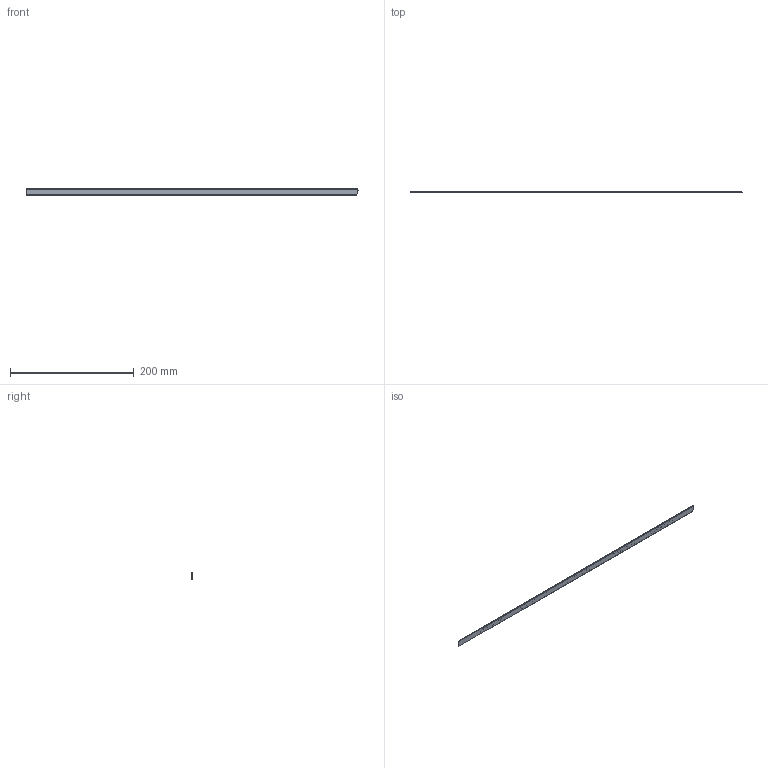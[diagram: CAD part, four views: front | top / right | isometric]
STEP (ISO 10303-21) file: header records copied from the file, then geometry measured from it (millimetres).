
FILE_DESCRIPTION (( 'STEP AP214' ), '1' );
FILE_NAME ('AS10_scale_VHB.STEP', '2022-06-08T09:05:32', ( '' ), ( '' ), 'SwSTEP 2.0', 'SolidWorks 2020', '' );
FILE_SCHEMA (( 'AUTOMOTIVE_DESIGN' ));
Length unit declared in the file: millimetre
Products named in the file (1): AS10_scale_VHB
Bounding box: 537.5 x 1.43 x 10 mm (x, y, z)
Volume: 7591.8 mm3; surface area: 32604.3 mm2
Topology: 3 solids, 3 shells, 1397 faces, 3723 edges, 2482 vertices
Faces by surface type: plane 1005, bspline 338, cylinder 54
Entity records: 58076 total; most frequent: CARTESIAN_POINT 23532, ORIENTED_EDGE 7446, DIRECTION 5267, EDGE_CURVE 3723, LINE 2939, VECTOR 2939, VERTEX_POINT 2482, EDGE_LOOP 1547
